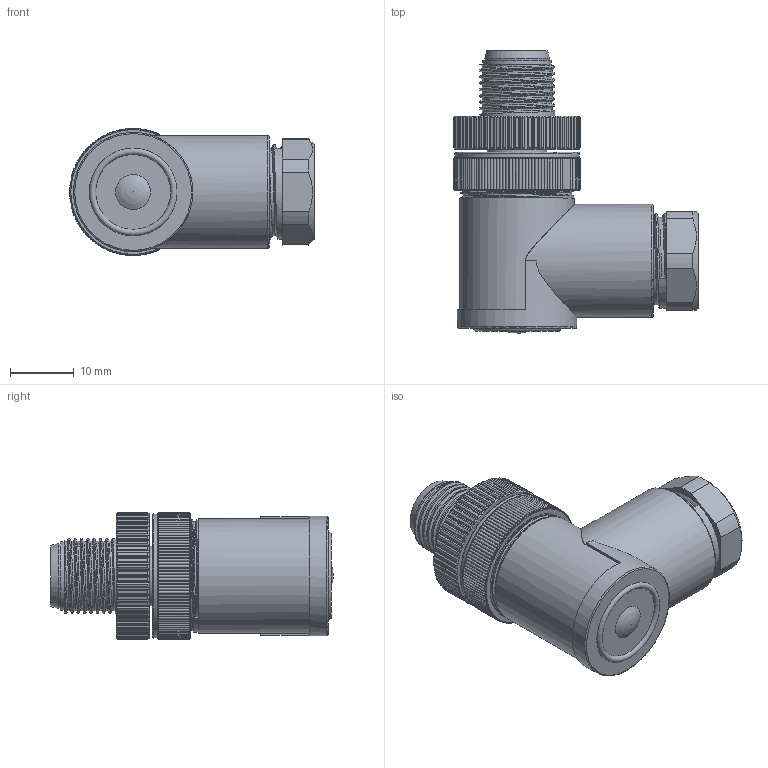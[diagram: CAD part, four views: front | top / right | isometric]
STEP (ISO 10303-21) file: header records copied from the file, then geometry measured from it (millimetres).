
FILE_DESCRIPTION(/* description */ (''),/* implementation_level */ '2;1');
FILE_NAME(/* name */ 'M12-4MR-PG9.stp',/* time_stamp */ '2024-08-14T14:14:43+08:00',/* author */ (''),/* organization */ (''),/* preprocessor_version */ 'ST-DEVELOPER v16.7',/* originating_system */ 'SIEMENS PLM Software NX 12.0',/* authorisation */ '');
FILE_SCHEMA (('AP203_CONFIGURATION_CONTROLLED_3D_DESIGN_OF_MECHANICAL_PARTS_AND_ASSEMBLIES_MIM_LF { 1 0 10303 403 2 1 2}'));
Length unit declared in the file: millimetre
Products named in the file (1): M12-4MR-PG9_stp
Bounding box: 38.54 x 44.5 x 20 mm (x, y, z)
Surface area: 12668.1 mm2
Topology: 12 solids, 13 shells, 1242 faces, 3096 edges, 1904 vertices
Faces by surface type: cone 408, cylinder 394, plane 354, bspline 32, extrusion 25, torus 22, sphere 7
Full cylindrical faces by diameter (mm): 1 x15, 1.2 x10, 1.4 x5, 1.5 x15, 2 x4, 2.2 x2, 8.3 x2, 9.4 x1, 9.8 x2, 10 x1, 10.2 x1, 10.8 x1, 11.3 x1, 11.6 x1, 13.2 x1, 13.8 x1, 14.2 x2, 14.3 x1, 14.4 x1, 14.7 x1, 15 x1, 15.8 x1, 16.7 x1, 17.8 x1, 18 x1, 18.8 x1, 19.6 x1
Entity records: 56736 total; most frequent: CARTESIAN_POINT 28814, ORIENTED_EDGE 5838, DIRECTION 5627, EDGE_CURVE 2919, AXIS2_PLACEMENT_3D 2306, VERTEX_POINT 1833, EDGE_LOOP 1418, ADVANCED_FACE 1241
